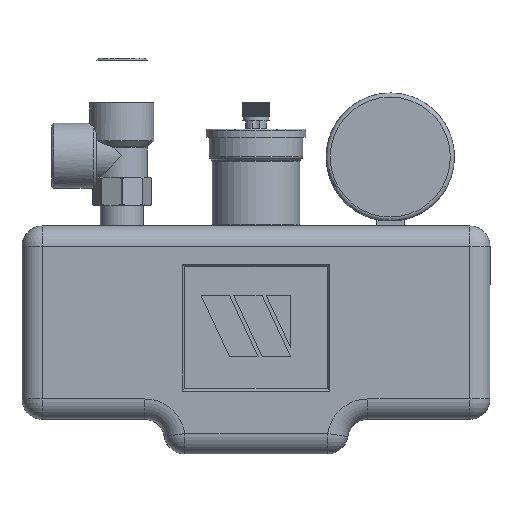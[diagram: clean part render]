
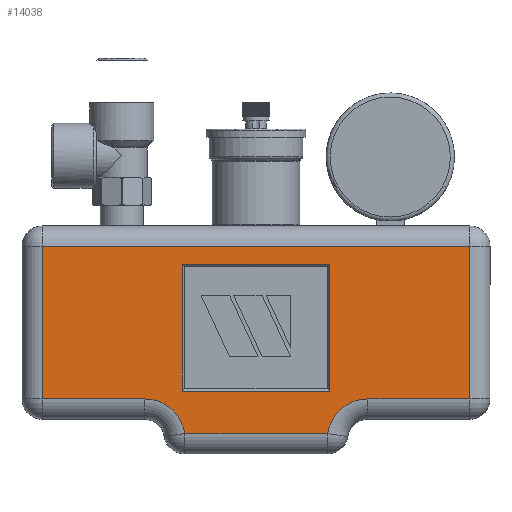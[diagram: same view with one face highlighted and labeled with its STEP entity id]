
A CAD part, left-side view. The second image highlights one B-rep face of the part: STEP entity #14038.
In plain terms, the highlighted planar face has unit normal (-1, 0, 0).
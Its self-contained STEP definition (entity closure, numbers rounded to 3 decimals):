
#500=FACE_BOUND('',#3044,.T.);
#1251=CIRCLE('',#15669,20.);
#1252=CIRCLE('',#15670,20.);
#2201=FACE_OUTER_BOUND('',#3043,.T.);
#3043=EDGE_LOOP('',(#11976,#11977,#11978,#11979,#11980,#11981,#11982,#11983));
#3044=EDGE_LOOP('',(#11984,#11985,#11986,#11987));
#3999=LINE('',#24554,#4966);
#4000=LINE('',#24558,#4967);
#4001=LINE('',#24562,#4968);
#4002=LINE('',#24564,#4969);
#4003=LINE('',#24566,#4970);
#4004=LINE('',#24567,#4971);
#4005=LINE('',#24570,#4972);
#4006=LINE('',#24572,#4973);
#4007=LINE('',#24574,#4974);
#4008=LINE('',#24575,#4975);
#4966=VECTOR('',#19495,10.);
#4967=VECTOR('',#19498,10.);
#4968=VECTOR('',#19501,10.);
#4969=VECTOR('',#19502,10.);
#4970=VECTOR('',#19503,10.);
#4971=VECTOR('',#19504,10.);
#4972=VECTOR('',#19505,10.);
#4973=VECTOR('',#19506,10.);
#4974=VECTOR('',#19507,10.);
#4975=VECTOR('',#19508,10.);
#6265=VERTEX_POINT('',#24552);
#6266=VERTEX_POINT('',#24553);
#6267=VERTEX_POINT('',#24555);
#6268=VERTEX_POINT('',#24557);
#6269=VERTEX_POINT('',#24559);
#6270=VERTEX_POINT('',#24561);
#6271=VERTEX_POINT('',#24563);
#6272=VERTEX_POINT('',#24565);
#6273=VERTEX_POINT('',#24568);
#6274=VERTEX_POINT('',#24569);
#6275=VERTEX_POINT('',#24571);
#6276=VERTEX_POINT('',#24573);
#8183=EDGE_CURVE('',#6265,#6266,#3999,.T.);
#8184=EDGE_CURVE('',#6267,#6265,#1251,.T.);
#8185=EDGE_CURVE('',#6268,#6267,#4000,.T.);
#8186=EDGE_CURVE('',#6269,#6268,#1252,.T.);
#8187=EDGE_CURVE('',#6270,#6269,#4001,.T.);
#8188=EDGE_CURVE('',#6271,#6270,#4002,.T.);
#8189=EDGE_CURVE('',#6272,#6271,#4003,.T.);
#8190=EDGE_CURVE('',#6266,#6272,#4004,.T.);
#8191=EDGE_CURVE('',#6273,#6274,#4005,.T.);
#8192=EDGE_CURVE('',#6274,#6275,#4006,.T.);
#8193=EDGE_CURVE('',#6275,#6276,#4007,.T.);
#8194=EDGE_CURVE('',#6276,#6273,#4008,.T.);
#11976=ORIENTED_EDGE('',*,*,#8183,.F.);
#11977=ORIENTED_EDGE('',*,*,#8184,.F.);
#11978=ORIENTED_EDGE('',*,*,#8185,.F.);
#11979=ORIENTED_EDGE('',*,*,#8186,.F.);
#11980=ORIENTED_EDGE('',*,*,#8187,.F.);
#11981=ORIENTED_EDGE('',*,*,#8188,.F.);
#11982=ORIENTED_EDGE('',*,*,#8189,.F.);
#11983=ORIENTED_EDGE('',*,*,#8190,.F.);
#11984=ORIENTED_EDGE('',*,*,#8191,.T.);
#11985=ORIENTED_EDGE('',*,*,#8192,.T.);
#11986=ORIENTED_EDGE('',*,*,#8193,.T.);
#11987=ORIENTED_EDGE('',*,*,#8194,.T.);
#12532=PLANE('',#15668);
#14038=ADVANCED_FACE('',(#2201,#500),#12532,.T.);
#15668=AXIS2_PLACEMENT_3D('',#24551,#19493,#19494);
#15669=AXIS2_PLACEMENT_3D('',#24556,#19496,#19497);
#15670=AXIS2_PLACEMENT_3D('',#24560,#19499,#19500);
#19493=DIRECTION('center_axis',(-1.,0.,0.));
#19494=DIRECTION('ref_axis',(0.,0.,
-1.));
#19495=DIRECTION('',(0.,1.,0.));
#19496=DIRECTION('center_axis',(-1.,0.,0.));
#19497=DIRECTION('ref_axis',(0.,-0.652,0.758));
#19498=DIRECTION('',(0.,1.,0.));
#19499=DIRECTION('center_axis',(-1.,0.,0.));
#19500=DIRECTION('ref_axis',(0.,0.652,0.758));
#19501=DIRECTION('',(0.,1.,0.));
#19502=DIRECTION('',(0.,0.,-1.));
#19503=DIRECTION('',(0.,-1.,0.));
#19504=DIRECTION('',(0.,0.,1.));
#19505=DIRECTION('',(0.,1.,0.));
#19506=DIRECTION('',(0.,0.,1.));
#19507=DIRECTION('',(0.,-1.,0.));
#19508=DIRECTION('',(0.,0.,-1.));
#24551=CARTESIAN_POINT('Origin',(-45.,0.,-52.52));
#24552=CARTESIAN_POINT('',(-45.,54.774,-85.));
#24553=CARTESIAN_POINT('',(-45.,105.,-85.));
#24554=CARTESIAN_POINT('',(-45.,22.5,-85.));
#24555=CARTESIAN_POINT('',(-45.,35.,-102.));
#24556=CARTESIAN_POINT('Origin',(-45.,54.774,-105.));
#24557=CARTESIAN_POINT('',(-45.,-35.226,-102.));
#24558=CARTESIAN_POINT('',(-45.,-22.5,-102.));
#24559=CARTESIAN_POINT('',(-45.,-55.,-85.));
#24560=CARTESIAN_POINT('Origin',(-45.,-55.,-105.));
#24561=CARTESIAN_POINT('',(-45.,-105.,-85.));
#24562=CARTESIAN_POINT('',(-45.,-57.5,-85.));
#24563=CARTESIAN_POINT('',(-45.,-105.,-10.));
#24564=CARTESIAN_POINT('',(-45.,-105.,-26.26));
#24565=CARTESIAN_POINT('',(-45.,105.,-10.));
#24566=CARTESIAN_POINT('',(-45.,57.5,-10.));
#24567=CARTESIAN_POINT('',(-45.,105.,-73.76));
#24568=CARTESIAN_POINT('',(-45.,-36.155,-81.155));
#24569=CARTESIAN_POINT('',(-45.,36.155,-81.155));
#24570=CARTESIAN_POINT('',(-45.,17.5,-81.155));
#24571=CARTESIAN_POINT('',(-45.,36.155,-18.845));
#24572=CARTESIAN_POINT('',(-45.,36.155,-36.26));
#24573=CARTESIAN_POINT('',(-45.,-36.155,-18.845));
#24574=CARTESIAN_POINT('',(-45.,-17.5,-18.845));
#24575=CARTESIAN_POINT('',(-45.,-36.155,-66.26));
